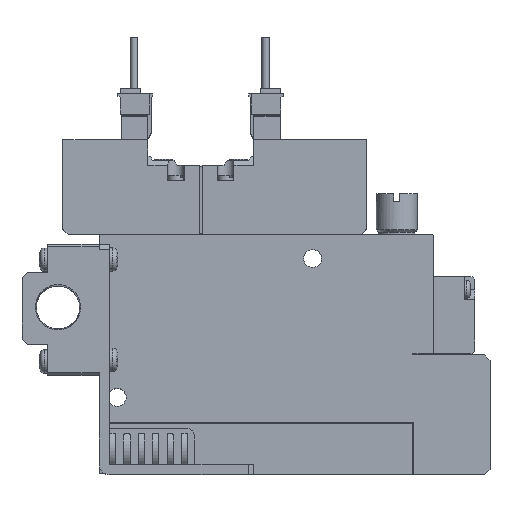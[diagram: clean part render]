
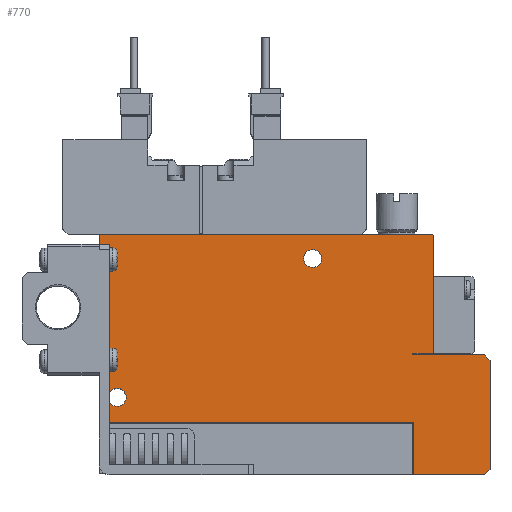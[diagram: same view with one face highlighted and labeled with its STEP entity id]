
A CAD part, top view. The second image highlights one B-rep face of the part: STEP entity #770.
In plain terms, the highlighted planar face has unit normal (0, 0, 1).
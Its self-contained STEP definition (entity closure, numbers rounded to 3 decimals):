
#770=ADVANCED_FACE('',(#1789,#1790,#1791),#1792,.F.);
#1789=FACE_OUTER_BOUND('',#3120,.T.);
#1790=FACE_BOUND('',#3121,.T.);
#1791=FACE_BOUND('',#3122,.T.);
#1792=PLANE('',#3123);
#3120=EDGE_LOOP('',(#6751,#6752,#6753,#6754,#6755,#6756,#6757,#6758,#6759,#6760,#6761,#6762,#6763,#6764));
#3121=EDGE_LOOP('',(#6765));
#3122=EDGE_LOOP('',(#6766));
#3123=AXIS2_PLACEMENT_3D('',#6767,#6768,#6769);
#6751=ORIENTED_EDGE('',*,*,#9456,.T.);
#6752=ORIENTED_EDGE('',*,*,#9490,.F.);
#6753=ORIENTED_EDGE('',*,*,#9468,.F.);
#6754=ORIENTED_EDGE('',*,*,#9491,.T.);
#6755=ORIENTED_EDGE('',*,*,#9289,.T.);
#6756=ORIENTED_EDGE('',*,*,#9377,.T.);
#6757=ORIENTED_EDGE('',*,*,#9374,.T.);
#6758=ORIENTED_EDGE('',*,*,#9380,.T.);
#6759=ORIENTED_EDGE('',*,*,#9383,.T.);
#6760=ORIENTED_EDGE('',*,*,#9492,.T.);
#6761=ORIENTED_EDGE('',*,*,#9338,.T.);
#6762=ORIENTED_EDGE('',*,*,#9486,.T.);
#6763=ORIENTED_EDGE('',*,*,#9475,.T.);
#6764=ORIENTED_EDGE('',*,*,#9283,.T.);
#6765=ORIENTED_EDGE('',*,*,#9354,.F.);
#6766=ORIENTED_EDGE('',*,*,#9352,.F.);
#6767=CARTESIAN_POINT('',(0.0,0.0,5.0));
#6768=DIRECTION('',(0.0,0.0,-1.0));
#6769=DIRECTION('',(0.0,-1.0,0.0));
#9283=EDGE_CURVE('',#11388,#11386,#11389,.T.);
#9289=EDGE_CURVE('',#11400,#11398,#11401,.T.);
#9338=EDGE_CURVE('',#11489,#11487,#11490,.T.);
#9352=EDGE_CURVE('',#11511,#11511,#11512,.T.);
#9354=EDGE_CURVE('',#11515,#11515,#11516,.T.);
#9374=EDGE_CURVE('',#11548,#11546,#11549,.T.);
#9377=EDGE_CURVE('',#11398,#11548,#11552,.T.);
#9380=EDGE_CURVE('',#11546,#11555,#11557,.T.);
#9383=EDGE_CURVE('',#11555,#11560,#11562,.T.);
#9456=EDGE_CURVE('',#11386,#11669,#11671,.T.);
#9468=EDGE_CURVE('',#11686,#11688,#11689,.T.);
#9475=EDGE_CURVE('',#11699,#11388,#11700,.T.);
#9486=EDGE_CURVE('',#11487,#11699,#11713,.T.);
#9490=EDGE_CURVE('',#11688,#11669,#11717,.T.);
#9491=EDGE_CURVE('',#11686,#11400,#11718,.T.);
#9492=EDGE_CURVE('',#11560,#11489,#11719,.T.);
#11386=VERTEX_POINT('',#14821);
#11388=VERTEX_POINT('',#14824);
#11389=LINE('',#14825,#14826);
#11398=VERTEX_POINT('',#14838);
#11400=VERTEX_POINT('',#14841);
#11401=LINE('',#14842,#14843);
#11487=VERTEX_POINT('',#14999);
#11489=VERTEX_POINT('',#15002);
#11490=LINE('',#15003,#15004);
#11511=VERTEX_POINT('',#15032);
#11512=CIRCLE('',#15033,1.75);
#11515=VERTEX_POINT('',#15036);
#11516=CIRCLE('',#15037,1.75);
#11546=VERTEX_POINT('',#15080);
#11548=VERTEX_POINT('',#15083);
#11549=LINE('',#15084,#15085);
#11552=LINE('',#15090,#15091);
#11555=VERTEX_POINT('',#15095);
#11557=LINE('',#15098,#15099);
#11560=VERTEX_POINT('',#15103);
#11562=LINE('',#15106,#15107);
#11669=VERTEX_POINT('',#15315);
#11671=LINE('',#15318,#15319);
#11686=VERTEX_POINT('',#15344);
#11688=VERTEX_POINT('',#15347);
#11689=LINE('',#15348,#15349);
#11699=VERTEX_POINT('',#15372);
#11700=LINE('',#15373,#15374);
#11713=LINE('',#15393,#15394);
#11717=LINE('',#15401,#15402);
#11718=LINE('',#15403,#15404);
#11719=LINE('',#15405,#15406);
#14821=CARTESIAN_POINT('',(0.0,46.4,5.0));
#14824=CARTESIAN_POINT('',(0.2,46.6,5.0));
#14825=CARTESIAN_POINT('',(0.2,46.6,5.0));
#14826=VECTOR('',#18126,1.0);
#14838=CARTESIAN_POINT('',(76.0,1.0,5.0));
#14841=CARTESIAN_POINT('',(75.0,0.0,5.0));
#14842=CARTESIAN_POINT('',(75.0,0.0,5.0));
#14843=VECTOR('',#18134,1.0);
#14999=CARTESIAN_POINT('',(65.0,46.4,5.0));
#15002=CARTESIAN_POINT('',(65.0,23.5,5.0));
#15003=CARTESIAN_POINT('',(65.0,23.5,5.0));
#15004=VECTOR('',#18201,1.0);
#15032=CARTESIAN_POINT('',(43.25,42.0,5.0));
#15033=AXIS2_PLACEMENT_3D('',#18227,#18228,#18229);
#15036=CARTESIAN_POINT('',(5.25,15.0,5.0));
#15037=AXIS2_PLACEMENT_3D('',#18233,#18234,#18235);
#15080=CARTESIAN_POINT('',(75.0,23.25,5.0));
#15083=CARTESIAN_POINT('',(76.0,22.25,5.0));
#15084=CARTESIAN_POINT('',(76.0,22.25,5.0));
#15085=VECTOR('',#18265,1.0);
#15090=CARTESIAN_POINT('',(76.0,1.0,5.0));
#15091=VECTOR('',#18268,1.0);
#15095=CARTESIAN_POINT('',(61.0,23.25,5.0));
#15098=CARTESIAN_POINT('',(75.0,23.25,5.0));
#15099=VECTOR('',#18271,1.0);
#15103=CARTESIAN_POINT('',(61.0,23.5,5.0));
#15106=CARTESIAN_POINT('',(61.0,23.25,5.0));
#15107=VECTOR('',#18274,1.0);
#15315=CARTESIAN_POINT('',(0.0,10.1,5.0));
#15318=CARTESIAN_POINT('',(0.0,46.4,5.0));
#15319=VECTOR('',#18368,1.0);
#15344=CARTESIAN_POINT('',(61.1,0.0,5.0));
#15347=CARTESIAN_POINT('',(61.1,10.1,5.0));
#15348=CARTESIAN_POINT('',(61.1,0.0,5.0));
#15349=VECTOR('',#18380,1.0);
#15372=CARTESIAN_POINT('',(64.8,46.6,5.0));
#15373=CARTESIAN_POINT('',(64.8,46.6,5.0));
#15374=VECTOR('',#18390,1.0);
#15393=CARTESIAN_POINT('',(65.0,46.4,5.0));
#15394=VECTOR('',#18409,1.0);
#15401=CARTESIAN_POINT('',(61.1,10.1,5.0));
#15402=VECTOR('',#18413,1.0);
#15403=CARTESIAN_POINT('',(0.0,0.0,5.0));
#15404=VECTOR('',#18414,1.0);
#15405=CARTESIAN_POINT('',(61.0,23.5,5.0));
#15406=VECTOR('',#18415,1.0);
#18126=DIRECTION('',(-0.707,-0.707,0.0));
#18134=DIRECTION('',(0.707,0.707,0.0));
#18201=DIRECTION('',(0.0,1.0,0.0));
#18227=CARTESIAN_POINT('',(41.5,42.0,5.0));
#18228=DIRECTION('',(0.0,0.0,1.0));
#18229=DIRECTION('',(1.0,0.0,0.0));
#18233=CARTESIAN_POINT('',(3.5,15.0,5.0));
#18234=DIRECTION('',(0.0,0.0,1.0));
#18235=DIRECTION('',(1.0,0.0,0.0));
#18265=DIRECTION('',(-0.707,0.707,0.0));
#18268=DIRECTION('',(0.0,1.0,0.0));
#18271=DIRECTION('',(-1.0,0.0,0.0));
#18274=DIRECTION('',(0.0,1.0,0.0));
#18368=DIRECTION('',(0.0,-1.0,0.0));
#18380=DIRECTION('',(0.0,1.0,0.0));
#18390=DIRECTION('',(-1.0,0.0,0.0));
#18409=DIRECTION('',(-0.707,0.707,0.0));
#18413=DIRECTION('',(-1.0,0.0,0.0));
#18414=DIRECTION('',(1.0,0.0,0.0));
#18415=DIRECTION('',(1.0,0.,0.0));
